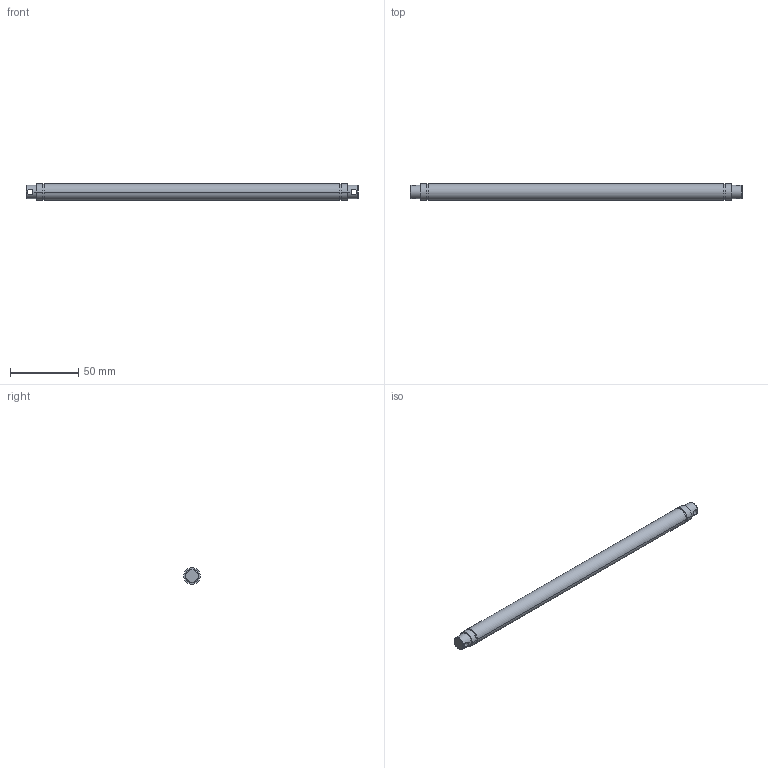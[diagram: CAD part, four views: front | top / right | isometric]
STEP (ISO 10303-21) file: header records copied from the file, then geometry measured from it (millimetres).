
FILE_DESCRIPTION (( 'STEP AP203' ), '1' );
FILE_NAME ('084.801.043.STEP', '2013-01-31T15:02:13', ( 'Alusic' ), ( 'Alusic' ), 'SwSTEP 2.0', 'SolidWorks 2011', '' );
FILE_SCHEMA (( 'CONFIG_CONTROL_DESIGN' ));
Length unit declared in the file: millimetre
Products named in the file (1): 084.801.043
Bounding box: 242.5 x 12 x 12 mm (x, y, z)
Volume: 26574.5 mm3; surface area: 9477.2 mm2
Topology: 1 solids, 1 shells, 30 faces, 74 edges, 48 vertices
Faces by surface type: cylinder 18, plane 8, cone 4
Entity records: 1187 total; most frequent: CARTESIAN_POINT 389, DIRECTION 152, ORIENTED_EDGE 148, EDGE_CURVE 74, AXIS2_PLACEMENT_3D 63, VERTEX_POINT 48, EDGE_LOOP 36, CIRCLE 32
